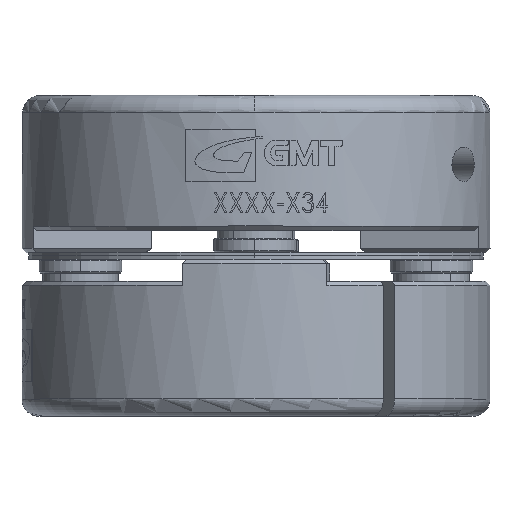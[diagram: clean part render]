
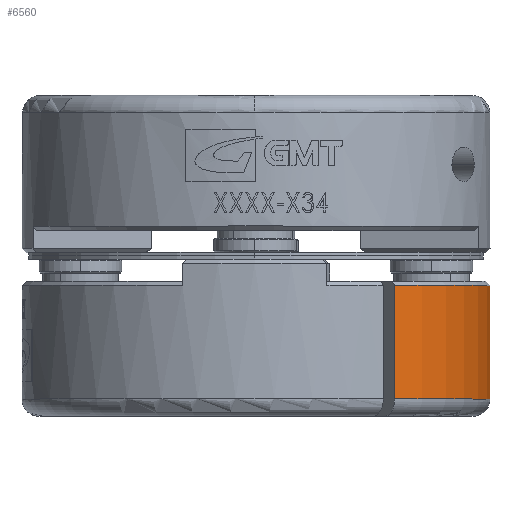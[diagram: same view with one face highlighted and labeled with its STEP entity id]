
A CAD part, top view. The second image highlights one B-rep face of the part: STEP entity #6560.
In plain terms, the highlighted cylindrical face has radius 17 mm (diameter 34 mm), a partial arc.
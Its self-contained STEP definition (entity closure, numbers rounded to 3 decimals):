
#496 = CARTESIAN_POINT ( 'NONE',  ( 3.956, -10.863, 15.784 ) ) ;
#497 = DIRECTION ( 'NONE',  ( -1., 0., -0.006 ) ) ;
#498 = DIRECTION ( 'NONE',  ( 0., 1., 0. ) ) ;
#509 = CARTESIAN_POINT ( 'NONE',  ( -6.114, -10.863, 2.088 ) ) ;
#510 = AXIS2_PLACEMENT_3D ( 'NONE', #509, #498, #497 ) ;
#511 = DIRECTION ( 'NONE',  ( 0., -1., 0. ) ) ;
#512 = CARTESIAN_POINT ( 'NONE',  ( -6.114, -0.713, 2.088 ) ) ;
#513 = AXIS2_PLACEMENT_3D ( 'NONE', #512, #511, #600 ) ;
#514 = CYLINDRICAL_SURFACE ( 'NONE', #513, 17. ) ;
#515 = FACE_OUTER_BOUND ( 'NONE', #6561, .T. ) ;
#527 = DIRECTION ( 'NONE',  ( 0., 1., 0. ) ) ;
#528 = VECTOR ( 'NONE', #527, 1000. ) ;
#529 = CARTESIAN_POINT ( 'NONE',  ( 3.956, -0.713, 15.784 ) ) ;
#530 = LINE ( 'NONE', #529, #528 ) ;
#600 = DIRECTION ( 'NONE',  ( 1., 0., 0.006 ) ) ;
#668 = CIRCLE ( 'NONE', #510, 17. ) ;
#3015 = CARTESIAN_POINT ( 'NONE',  ( 10.885, -2.613, 2.194 ) ) ;
#3159 = CARTESIAN_POINT ( 'NONE',  ( 10.885, -10.863, 2.194 ) ) ;
#3160 = DIRECTION ( 'NONE',  ( 0., -1., 0. ) ) ;
#3161 = VECTOR ( 'NONE', #3160, 1000. ) ;
#3162 = CARTESIAN_POINT ( 'NONE',  ( 10.885, -0.713, 2.194 ) ) ;
#3163 = LINE ( 'NONE', #3162, #3161 ) ;
#4349 = CARTESIAN_POINT ( 'NONE',  ( 3.956, -2.613, 15.784 ) ) ;
#4357 = DIRECTION ( 'NONE',  ( -1., 0., -0.006 ) ) ;
#4358 = DIRECTION ( 'NONE',  ( 0., -1., 0. ) ) ;
#4359 = CARTESIAN_POINT ( 'NONE',  ( -6.114, -2.613, 2.088 ) ) ;
#4360 = AXIS2_PLACEMENT_3D ( 'NONE', #4359, #4358, #4357 ) ;
#4361 = CIRCLE ( 'NONE', #4360, 17. ) ;
#5817 = VERTEX_POINT ( 'NONE', #4349 ) ;
#5962 = EDGE_CURVE ( 'NONE', #14462, #5817, #4361, .T. ) ;
#6533 = EDGE_CURVE ( 'NONE', #6534, #14509, #668, .T. ) ;
#6534 = VERTEX_POINT ( 'NONE', #496 ) ;
#6549 = EDGE_CURVE ( 'NONE', #6534, #5817, #530, .T. ) ;
#6560 = ADVANCED_FACE ( 'NONE', ( #515 ), #514, .T. ) ;
#6561 = EDGE_LOOP ( 'NONE', ( #6562, #7145, #7104, #7105 ) ) ;
#6562 = ORIENTED_EDGE ( 'NONE', *, *, #14508, .F. ) ;
#7104 = ORIENTED_EDGE ( 'NONE', *, *, #6549, .F. ) ;
#7105 = ORIENTED_EDGE ( 'NONE', *, *, #6533, .T. ) ;
#7145 = ORIENTED_EDGE ( 'NONE', *, *, #5962, .T. ) ;
#14462 = VERTEX_POINT ( 'NONE', #3015 ) ;
#14508 = EDGE_CURVE ( 'NONE', #14462, #14509, #3163, .T. ) ;
#14509 = VERTEX_POINT ( 'NONE', #3159 ) ;
